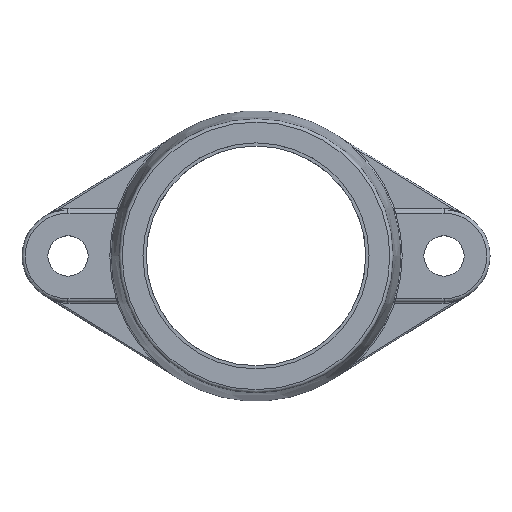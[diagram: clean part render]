
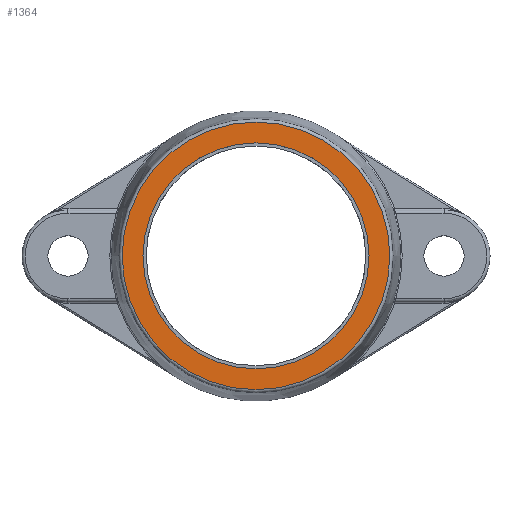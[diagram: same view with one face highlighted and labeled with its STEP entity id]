
A CAD part, top view. The second image highlights one B-rep face of the part: STEP entity #1364.
In plain terms, the highlighted planar face has unit normal (0, 0, 1).
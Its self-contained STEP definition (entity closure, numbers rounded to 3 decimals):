
#17=FACE_BOUND('',#355,.T.);
#30=PLANE('',#1524);
#264=FACE_OUTER_BOUND('',#354,.T.);
#354=EDGE_LOOP('',(#1129));
#355=EDGE_LOOP('',(#1130));
#504=CIRCLE('',#1523,82.921);
#505=CIRCLE('',#1525,70.028);
#623=VERTEX_POINT('',#3482);
#624=VERTEX_POINT('',#3486);
#806=EDGE_CURVE('',#623,#623,#504,.T.);
#807=EDGE_CURVE('',#624,#624,#505,.T.);
#1129=ORIENTED_EDGE('',*,*,#806,.F.);
#1130=ORIENTED_EDGE('',*,*,#807,.T.);
#1364=ADVANCED_FACE('',(#264,#17),#30,.T.);
#1523=AXIS2_PLACEMENT_3D('',#3484,#1833,#1834);
#1524=AXIS2_PLACEMENT_3D('',#3485,#1835,#1836);
#1525=AXIS2_PLACEMENT_3D('',#3487,#1837,#1838);
#1833=DIRECTION('center_axis',(0.,0.,-1.));
#1834=DIRECTION('ref_axis',(1.,0.,0.));
#1835=DIRECTION('center_axis',(0.,0.,1.));
#1836=DIRECTION('ref_axis',(1.,0.,0.));
#1837=DIRECTION('center_axis',(0.,0.,-1.));
#1838=DIRECTION('ref_axis',(1.,0.,0.));
#3482=CARTESIAN_POINT('',(82.921,0.,58.));
#3484=CARTESIAN_POINT('Origin',(0.,0.,58.));
#3485=CARTESIAN_POINT('Origin',(-84.659,0.,58.));
#3486=CARTESIAN_POINT('',(70.028,0.,58.));
#3487=CARTESIAN_POINT('Origin',(0.,0.,58.));
